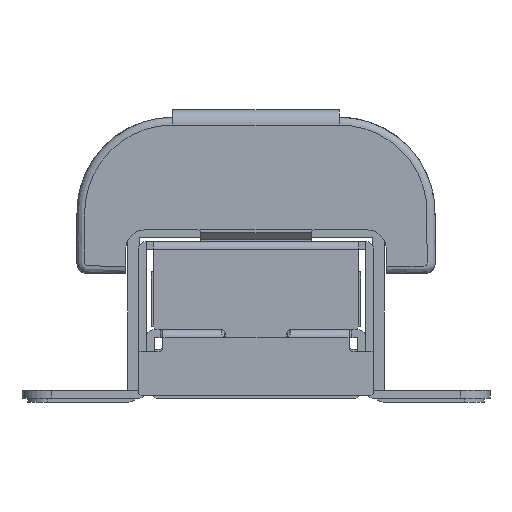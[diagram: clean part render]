
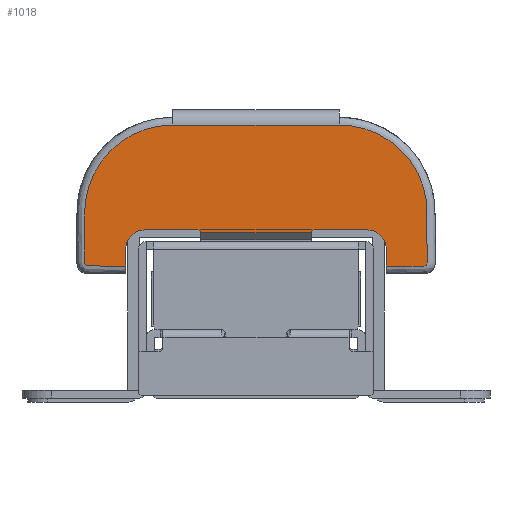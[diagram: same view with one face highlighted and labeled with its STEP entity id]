
A CAD part, front view. The second image highlights one B-rep face of the part: STEP entity #1018.
In plain terms, the highlighted planar face has unit normal (0, -1, 0).
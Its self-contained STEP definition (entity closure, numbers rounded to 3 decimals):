
#122=TRIMMED_CURVE($,#472,(#13449),(#13450),.T.,.CARTESIAN.);
#149=TRIMMED_CURVE($,#499,(#13616),(#13617),.T.,.CARTESIAN.);
#155=TRIMMED_CURVE($,#505,(#13648),(#13649),.T.,.CARTESIAN.);
#158=TRIMMED_CURVE($,#508,(#13659),(#13660),.T.,.CARTESIAN.);
#472=CIRCLE('',#8718,2.);
#499=CIRCLE('',#8745,2.);
#505=CIRCLE('',#8751,0.3);
#508=CIRCLE('',#8754,0.3);
#1018=ADVANCED_FACE('',(#1493),#8163,.T.);
#1493=FACE_OUTER_BOUND('',#1968,.T.);
#1968=EDGE_LOOP('',(#2532,#2533,#2534,#2535,#2536,#2537,#2538,#2539,#2540,
#2541,#2542,#2543));
#2532=ORIENTED_EDGE('',*,*,#5106,.T.);
#2533=ORIENTED_EDGE('',*,*,#5107,.T.);
#2534=ORIENTED_EDGE('',*,*,#5250,.T.);
#2535=ORIENTED_EDGE('',*,*,#5069,.F.);
#2536=ORIENTED_EDGE('',*,*,#5337,.T.);
#2537=ORIENTED_EDGE('',*,*,#5108,.T.);
#2538=ORIENTED_EDGE('',*,*,#5333,.T.);
#2539=ORIENTED_EDGE('',*,*,#5071,.F.);
#2540=ORIENTED_EDGE('',*,*,#5320,.T.);
#2541=ORIENTED_EDGE('',*,*,#5109,.T.);
#2542=ORIENTED_EDGE('',*,*,#5110,.T.);
#2543=ORIENTED_EDGE('',*,*,#5080,.F.);
#5069=EDGE_CURVE('',#7327,#7328,#6380,.T.);
#5071=EDGE_CURVE('',#7329,#7330,#6382,.T.);
#5080=EDGE_CURVE('',#7339,#7336,#6389,.T.);
#5106=EDGE_CURVE('',#7339,#7362,#6409,.T.);
#5107=EDGE_CURVE('',#7362,#7363,#6410,.T.);
#5108=EDGE_CURVE('',#7364,#7365,#6411,.T.);
#5109=EDGE_CURVE('',#7366,#7367,#6412,.T.);
#5110=EDGE_CURVE('',#7367,#7336,#6413,.T.);
#5250=EDGE_CURVE('',#7363,#7328,#122,.T.);
#5320=EDGE_CURVE('',#7329,#7366,#149,.T.);
#5333=EDGE_CURVE('',#7365,#7330,#155,.T.);
#5337=EDGE_CURVE('',#7327,#7364,#158,.T.);
#6380=B_SPLINE_CURVE_WITH_KNOTS('',1,(#12417,#12418),.UNSPECIFIED.,.F.,
 .F.,(2,2),(0.,5.35),.UNSPECIFIED.);
#6382=B_SPLINE_CURVE_WITH_KNOTS('',1,(#12421,#12422),.UNSPECIFIED.,.F.,
 .F.,(2,2),(0.,5.35),.UNSPECIFIED.);
#6389=B_SPLINE_CURVE_WITH_KNOTS('',1,(#12443,#12444),.UNSPECIFIED.,.F.,
 .F.,(2,2),(0.,17.),.UNSPECIFIED.);
#6409=B_SPLINE_CURVE_WITH_KNOTS('',3,(#12647,#12648,#12649,#12650,#12651,
#12652,#12653,#12654,#12655,#12656,#12657,#12658,#12659,#12660,#12661,#12662,
#12663,#12664,#12665,#12666),.UNSPECIFIED.,.F.,.F.,(4,2,2,2,2,2,2,2,2,4),
(0.,5.963,11.926,14.908,17.889,
19.38,19.752,20.125,20.871,23.852),
 .UNSPECIFIED.);
#6410=B_SPLINE_CURVE_WITH_KNOTS('',1,(#12667,#12668),.UNSPECIFIED.,.F.,
 .F.,(2,2),(0.,1.7),.UNSPECIFIED.);
#6411=B_SPLINE_CURVE_WITH_KNOTS('',1,(#12669,#12670),.UNSPECIFIED.,.F.,
 .F.,(2,2),(0.,11.3),.UNSPECIFIED.);
#6412=B_SPLINE_CURVE_WITH_KNOTS('',1,(#12671,#12672),.UNSPECIFIED.,.F.,
 .F.,(2,2),(0.,1.7),.UNSPECIFIED.);
#6413=B_SPLINE_CURVE_WITH_KNOTS('',3,(#12673,#12674,#12675,#12676,#12677,
#12678,#12679,#12680,#12681,#12682,#12683,#12684,#12685,#12686,#12687,#12688,
#12689,#12690,#12691,#12692),.UNSPECIFIED.,.F.,.F.,(4,2,2,2,2,2,2,2,2,4),
(0.,2.981,3.727,4.099,4.472,
5.963,8.944,11.926,17.888,23.851),
 .UNSPECIFIED.);
#7327=VERTEX_POINT('',#12237);
#7328=VERTEX_POINT('',#12238);
#7329=VERTEX_POINT('',#12239);
#7330=VERTEX_POINT('',#12240);
#7336=VERTEX_POINT('',#12246);
#7339=VERTEX_POINT('',#12249);
#7362=VERTEX_POINT('',#12272);
#7363=VERTEX_POINT('',#12273);
#7364=VERTEX_POINT('',#12274);
#7365=VERTEX_POINT('',#12275);
#7366=VERTEX_POINT('',#12276);
#7367=VERTEX_POINT('',#12277);
#8163=PLANE('',#8601);
#8601=AXIS2_PLACEMENT_3D('',#10843,#9385,$);
#8718=AXIS2_PLACEMENT_3D($,#13448,#9543,#9544);
#8745=AXIS2_PLACEMENT_3D($,#13615,#9597,#9598);
#8751=AXIS2_PLACEMENT_3D($,#13647,#9609,#9610);
#8754=AXIS2_PLACEMENT_3D($,#13658,#9615,#9616);
#9385=DIRECTION('',(0.,-1.,0.));
#9543=DIRECTION('',(0.,1.,0.));
#9544=DIRECTION('',(-1.,0.,0.));
#9597=DIRECTION('',(0.,1.,0.));
#9598=DIRECTION('',(0.,0.,1.));
#9609=DIRECTION('',(0.,1.,0.));
#9610=DIRECTION('',(-1.,0.,0.));
#9615=DIRECTION('',(0.,1.,0.));
#9616=DIRECTION('',(0.,0.,1.));
#10843=CARTESIAN_POINT('',(-3.964,4.946,13.952));
#12237=CARTESIAN_POINT('',(11.696,4.946,1.2));
#12238=CARTESIAN_POINT('',(6.346,4.946,1.2));
#12239=CARTESIAN_POINT('',(28.946,4.946,1.2));
#12240=CARTESIAN_POINT('',(23.596,4.946,1.2));
#12246=CARTESIAN_POINT('',(26.146,4.946,11.9));
#12249=CARTESIAN_POINT('',(9.146,4.946,11.9));
#12272=CARTESIAN_POINT('',(4.346,4.946,-2.5));
#12273=CARTESIAN_POINT('',(4.346,4.946,-0.8));
#12274=CARTESIAN_POINT('',(11.996,4.946,0.9));
#12275=CARTESIAN_POINT('',(23.296,4.946,0.9));
#12276=CARTESIAN_POINT('',(30.946,4.946,-0.8));
#12277=CARTESIAN_POINT('',(30.946,4.946,-2.5));
#12417=CARTESIAN_POINT('',(11.696,4.946,1.2));
#12418=CARTESIAN_POINT('',(6.346,4.946,1.2));
#12421=CARTESIAN_POINT('',(28.946,4.946,1.2));
#12422=CARTESIAN_POINT('',(23.596,4.946,1.2));
#12443=CARTESIAN_POINT('',(9.146,4.946,11.9));
#12444=CARTESIAN_POINT('',(26.146,4.946,11.9));
#12647=CARTESIAN_POINT('',(9.146,4.946,11.9));
#12648=CARTESIAN_POINT('',(7.165,4.946,11.9));
#12649=CARTESIAN_POINT('',(5.232,4.946,11.242));
#12650=CARTESIAN_POINT('',(2.099,4.946,8.836));
#12651=CARTESIAN_POINT('',(0.967,4.946,7.145));
#12652=CARTESIAN_POINT('',(0.197,4.946,4.277));
#12653=CARTESIAN_POINT('',(0.146,4.946,3.287));
#12654=CARTESIAN_POINT('',(0.146,4.946,1.316));
#12655=CARTESIAN_POINT('',(0.146,4.946,0.33));
#12656=CARTESIAN_POINT('',(0.146,4.946,-1.149));
#12657=CARTESIAN_POINT('',(0.147,4.946,-1.641));
#12658=CARTESIAN_POINT('',(0.146,4.946,-2.258));
#12659=CARTESIAN_POINT('',(0.183,4.946,-2.389));
#12660=CARTESIAN_POINT('',(0.39,4.946,-2.519));
#12661=CARTESIAN_POINT('',(0.524,4.946,-2.5));
#12662=CARTESIAN_POINT('',(0.894,4.946,-2.5));
#12663=CARTESIAN_POINT('',(1.141,4.946,-2.5));
#12664=CARTESIAN_POINT('',(2.373,4.946,-2.5));
#12665=CARTESIAN_POINT('',(3.36,4.946,-2.5));
#12666=CARTESIAN_POINT('',(4.346,4.946,-2.5));
#12667=CARTESIAN_POINT('',(4.346,4.946,-2.5));
#12668=CARTESIAN_POINT('',(4.346,4.946,-0.8));
#12669=CARTESIAN_POINT('',(11.996,4.946,0.9));
#12670=CARTESIAN_POINT('',(23.296,4.946,0.9));
#12671=CARTESIAN_POINT('',(30.946,4.946,-0.8));
#12672=CARTESIAN_POINT('',(30.946,4.946,-2.5));
#12673=CARTESIAN_POINT('',(30.946,4.946,-2.5));
#12674=CARTESIAN_POINT('',(31.932,4.946,-2.5));
#12675=CARTESIAN_POINT('',(32.919,4.946,-2.5));
#12676=CARTESIAN_POINT('',(34.152,4.946,-2.5));
#12677=CARTESIAN_POINT('',(34.398,4.946,-2.5));
#12678=CARTESIAN_POINT('',(34.768,4.946,-2.5));
#12679=CARTESIAN_POINT('',(34.902,4.946,-2.519));
#12680=CARTESIAN_POINT('',(35.109,4.946,-2.389));
#12681=CARTESIAN_POINT('',(35.146,4.946,-2.257));
#12682=CARTESIAN_POINT('',(35.145,4.946,-1.641));
#12683=CARTESIAN_POINT('',(35.146,4.946,-1.148));
#12684=CARTESIAN_POINT('',(35.146,4.946,0.331));
#12685=CARTESIAN_POINT('',(35.146,4.946,1.317));
#12686=CARTESIAN_POINT('',(35.146,4.946,3.288));
#12687=CARTESIAN_POINT('',(35.095,4.946,4.278));
#12688=CARTESIAN_POINT('',(34.324,4.946,7.146));
#12689=CARTESIAN_POINT('',(33.18,4.946,8.85));
#12690=CARTESIAN_POINT('',(30.053,4.946,11.243));
#12691=CARTESIAN_POINT('',(28.127,4.946,11.9));
#12692=CARTESIAN_POINT('',(26.146,4.946,11.9));
#13448=CARTESIAN_POINT('',(6.346,4.946,-0.8));
#13449=CARTESIAN_POINT('',(4.346,4.946,-0.8));
#13450=CARTESIAN_POINT('',(6.346,4.946,1.2));
#13615=CARTESIAN_POINT('',(28.946,4.946,-0.8));
#13616=CARTESIAN_POINT('',(28.946,4.946,1.2));
#13617=CARTESIAN_POINT('',(30.946,4.946,-0.8));
#13647=CARTESIAN_POINT('',(23.596,4.946,0.9));
#13648=CARTESIAN_POINT('',(23.296,4.946,0.9));
#13649=CARTESIAN_POINT('',(23.596,4.946,1.2));
#13658=CARTESIAN_POINT('',(11.696,4.946,0.9));
#13659=CARTESIAN_POINT('',(11.696,4.946,1.2));
#13660=CARTESIAN_POINT('',(11.996,4.946,0.9));
